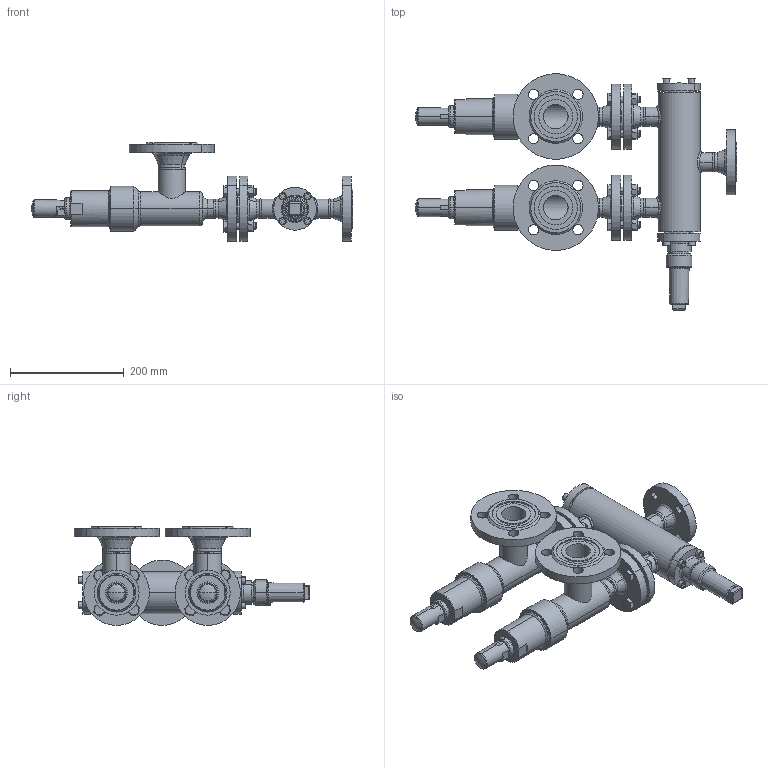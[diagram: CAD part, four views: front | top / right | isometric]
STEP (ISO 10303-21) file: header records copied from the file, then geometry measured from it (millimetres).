
FILE_DESCRIPTION (( 'STEP AP214' ), '1' );
FILE_NAME ('WVR-SVAA_1A7FL_DN25_DIN-FL_seitlich.STEP', '2010-09-08T13:19:49', ( 'Eckhard Grams' ), ( 'AWP Kälte Klima Armaturen GmbH' ), 'SwSTEP 2.0', 'SolidWorks 2002296', '' );
FILE_SCHEMA (( 'AUTOMOTIVE_DESIGN' ));
Length unit declared in the file: millimetre
Products named in the file (30): WVR-SVAA_1A7FL_DN25_DIN-FL_seitlich; WVR24020D12-DN025_DIN-FL-N-F_PS40_Standard; WVB-R23000E13_Deck+Schr-DN25-32_Standard; Deckel23000E13-DN25-32_Standard; AVR26300E13_Deck+Schr-DN25-32_Standard; Deckel26300E13-DN25-32_Standard; Zylinderschraube-DIN912_M 8x  25; Geh,kpl24020E12-DN25_DIN-FL-N-F_PS40_Standard; Geh,kpl24000E12_DN25_R1_PS40_Standard; Rohrstutzen-24000E12-DN25_R1_Standard; Gehäuse24000E12-DN25_R1_PS40_Standard; Schw-24000E12-DN25_Standard; Flansch-DIN2635-Feder_PS40_DIN-Flansch-DN025_PS40-Feder; beadC4020-12-3_Standard; beadC4020-12-2_Standard; beadC4020-12-1_Standard; Kappe 16402-13_DN10-32 (M36x2)_Standard; SVAA 45620D12-DN25(40)_DIN; Gehkpl 45720E12-5030001; Rohrstutzen-A 45700E12-5036004_DN25(40)_Standard; Flansch-DIN2635-Nut_PS40_DIN-Flansch-DN040_PS40-Nut; Flansch-DIN2635-Nut_PS40_DIN-Flansch-DN025_PS40-Nut; Geh 45700E12-5034004_DN25; bead Geh,kpl 45720E12-2_Standard; bead Geh,kpl 45720E12-1_Standard; Haube 45700E11-5260003_DN20-25; Flachdichtg-Alu-DN20-25; Kappe SVA-SVU-ORV_DN10-40 (M27x1,5)_Standard; Sechskantschraube-DIN933_M12x 50; Sechskantmutter-DIN934_M12
Assembly tree (57 placements, depth 5):
  WVR-SVAA_1A7FL_DN25_DIN-FL_seitlich
    Sechskantschraube-DIN933_M12x 50  x8
    WVR24020D12-DN025_DIN-FL-N-F_PS40_Standard
      AVR26300E13_Deck+Schr-DN25-32_Standard
        Zylinderschraube-DIN912_M 8x  25  x4
        Deckel26300E13-DN25-32_Standard
      WVB-R23000E13_Deck+Schr-DN25-32_Standard
        Zylinderschraube-DIN912_M 8x  25  x4
        Deckel23000E13-DN25-32_Standard
      Geh,kpl24020E12-DN25_DIN-FL-N-F_PS40_Standard
        Geh,kpl24000E12_DN25_R1_PS40_Standard
          Schw-24000E12-DN25_Standard  x3
          Rohrstutzen-24000E12-DN25_R1_Standard  x3
          Gehäuse24000E12-DN25_R1_PS40_Standard
        beadC4020-12-2_Standard
        Flansch-DIN2635-Feder_PS40_DIN-Flansch-DN025_PS40-Feder  x2
        beadC4020-12-1_Standard
        Flansch-DIN2635-Nut_PS40_DIN-Flansch-DN025_PS40-Nut
        beadC4020-12-3_Standard
      Kappe 16402-13_DN10-32 (M36x2)_Standard
    SVAA 45620D12-DN25(40)_DIN  x2
      Haube 45700E11-5260003_DN20-25
      Flachdichtg-Alu-DN20-25
      Gehkpl 45720E12-5030001
        Flansch-DIN2635-Nut_PS40_DIN-Flansch-DN040_PS40-Nut
        Flansch-DIN2635-Nut_PS40_DIN-Flansch-DN025_PS40-Nut
        Rohrstutzen-A 45700E12-5036004_DN25(40)_Standard
        Geh 45700E12-5034004_DN25
        bead Geh,kpl 45720E12-1_Standard
        bead Geh,kpl 45720E12-2_Standard
      Kappe SVA-SVU-ORV_DN10-40 (M27x1,5)_Standard
    Sechskantmutter-DIN934_M12  x8
Bounding box: 564 x 414.21 x 173.28 mm (x, y, z)
Volume: 3140235.4 mm3; surface area: 778720.6 mm2
Topology: 58 solids, 58 shells, 1341 faces, 3141 edges, 1965 vertices
Faces by surface type: cylinder 496, plane 377, cone 311, torus 95, bspline 54, sphere 8
Entity records: 41897 total; most frequent: CARTESIAN_POINT 26306, DIRECTION 2873, ORIENTED_EDGE 2730, EDGE_CURVE 1365, AXIS2_PLACEMENT_3D 1221, VERTEX_POINT 856, EDGE_LOOP 681, CIRCLE 616
